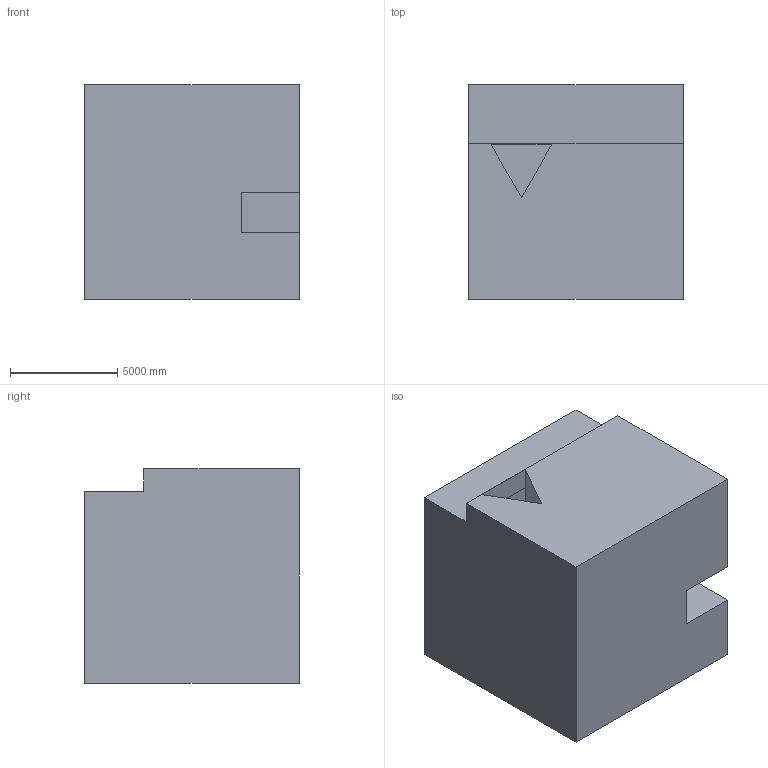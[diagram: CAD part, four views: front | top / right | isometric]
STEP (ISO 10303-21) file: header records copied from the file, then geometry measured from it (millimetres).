
FILE_DESCRIPTION (( 'STEP AP203' ), '1' );
FILE_NAME ('1271.STEP', '2022-08-18T13:29:47', ( 'user' ), ( '' ), 'SwSTEP 2.0', 'SolidWorks 2021', '' );
FILE_SCHEMA (( 'CONFIG_CONTROL_DESIGN' ));
Length unit declared in the file: centimetre
Products named in the file (1): 1271
Bounding box: 10000 x 10000 x 10000 mm (x, y, z)
Volume: 916725272345.4 mm3; surface area: 691880075.8 mm2
Topology: 1 solids, 1 shells, 16 faces, 39 edges, 26 vertices
Faces by surface type: plane 16
Entity records: 540 total; most frequent: CARTESIAN_POINT 82, ORIENTED_EDGE 78, DIRECTION 73, EDGE_CURVE 39, VECTOR 39, LINE 39, VERTEX_POINT 26, AXIS2_PLACEMENT_3D 17
